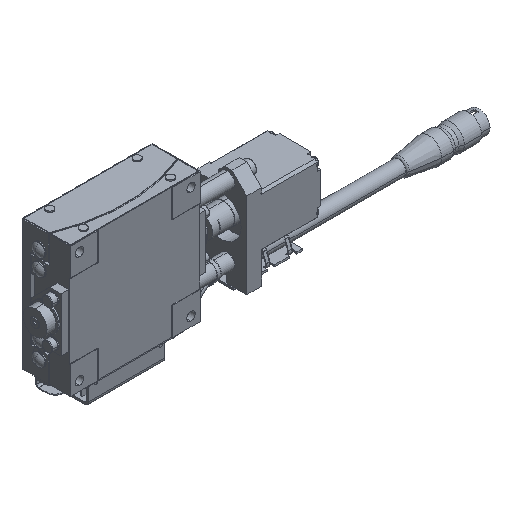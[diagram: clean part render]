
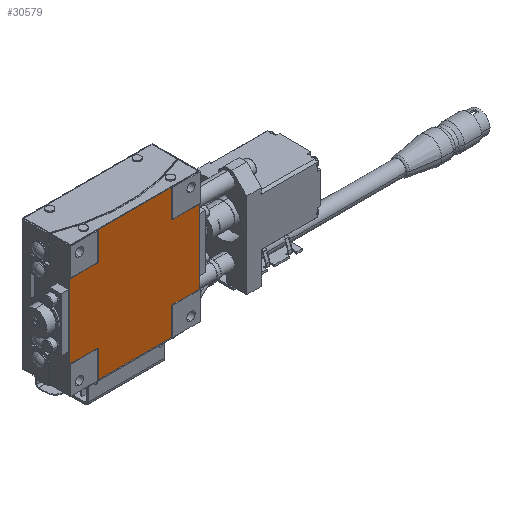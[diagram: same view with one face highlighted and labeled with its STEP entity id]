
A CAD part, isometric view. The second image highlights one B-rep face of the part: STEP entity #30579.
In plain terms, the highlighted planar face has unit normal (0, -1, 0).
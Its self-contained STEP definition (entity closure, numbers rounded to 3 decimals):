
#98 = EDGE_CURVE ( 'NONE', #22498, #18469, #4085, .T. ) ;
#250 = VERTEX_POINT ( 'NONE', #40779 ) ;
#317 = CARTESIAN_POINT ( 'NONE',  ( -35., 0.3, -20. ) ) ;
#466 = DIRECTION ( 'NONE',  ( 1., 0., 0. ) ) ;
#645 = LINE ( 'NONE', #317, #41882 ) ;
#1678 = DIRECTION ( 'NONE',  ( 0., 0., 1. ) ) ;
#2079 = VECTOR ( 'NONE', #29240, 1000. ) ;
#2327 = DIRECTION ( 'NONE',  ( 0., 0., -1. ) ) ;
#2330 = CARTESIAN_POINT ( 'NONE',  ( -20., 0.3, 20. ) ) ;
#2483 = CARTESIAN_POINT ( 'NONE',  ( 35., 0.3, 20. ) ) ;
#4085 = LINE ( 'NONE', #34901, #27233 ) ;
#4150 = LINE ( 'NONE', #26068, #2079 ) ;
#5897 = CARTESIAN_POINT ( 'NONE',  ( -35., 0.3, 20. ) ) ;
#5947 = CARTESIAN_POINT ( 'NONE',  ( 20., 0.3, -20. ) ) ;
#7418 = CARTESIAN_POINT ( 'NONE',  ( 35., 0.3, -20. ) ) ;
#7503 = LINE ( 'NONE', #31606, #31747 ) ;
#7732 = VECTOR ( 'NONE', #2327, 1000. ) ;
#7751 = ORIENTED_EDGE ( 'NONE', *, *, #40291, .T. ) ;
#8882 = LINE ( 'NONE', #5947, #18104 ) ;
#10231 = CARTESIAN_POINT ( 'NONE',  ( 35., 0.3, 20. ) ) ;
#10238 = LINE ( 'NONE', #14918, #28829 ) ;
#10361 = ORIENTED_EDGE ( 'NONE', *, *, #18931, .T. ) ;
#10362 = CARTESIAN_POINT ( 'NONE',  ( 20., 0.3, 20. ) ) ;
#12035 = ORIENTED_EDGE ( 'NONE', *, *, #27051, .T. ) ;
#12754 = CARTESIAN_POINT ( 'NONE',  ( 20., 0.3, 35. ) ) ;
#13272 = CARTESIAN_POINT ( 'NONE',  ( -35., 0.3, 20. ) ) ;
#14918 = CARTESIAN_POINT ( 'NONE',  ( -20., 0.3, -35. ) ) ;
#15252 = DIRECTION ( 'NONE',  ( 0., 0., 1. ) ) ;
#16092 = ORIENTED_EDGE ( 'NONE', *, *, #31143, .T. ) ;
#16553 = EDGE_CURVE ( 'NONE', #25066, #23331, #8882, .T. ) ;
#17611 = VERTEX_POINT ( 'NONE', #35930 ) ;
#18104 = VECTOR ( 'NONE', #28434, 1000. ) ;
#18469 = VERTEX_POINT ( 'NONE', #12754 ) ;
#18706 = EDGE_CURVE ( 'NONE', #250, #24775, #10238, .T. ) ;
#18715 = VERTEX_POINT ( 'NONE', #41745 ) ;
#18771 = DIRECTION ( 'NONE',  ( 0., 1., 0. ) ) ;
#18931 = EDGE_CURVE ( 'NONE', #19700, #22498, #30358, .T. ) ;
#19167 = DIRECTION ( 'NONE',  ( -1., 0., 0. ) ) ;
#19700 = VERTEX_POINT ( 'NONE', #10231 ) ;
#19995 = CARTESIAN_POINT ( 'NONE',  ( 20., 0.3, -35. ) ) ;
#21306 = CARTESIAN_POINT ( 'NONE',  ( -20., 0.3, 20. ) ) ;
#21682 = PLANE ( 'NONE',  #40703 ) ;
#21849 = VERTEX_POINT ( 'NONE', #13272 ) ;
#22098 = DIRECTION ( 'NONE',  ( -1., 0., 0. ) ) ;
#22127 = VECTOR ( 'NONE', #27095, 1000. ) ;
#22498 = VERTEX_POINT ( 'NONE', #10362 ) ;
#22660 = VECTOR ( 'NONE', #15252, 1000. ) ;
#23163 = VECTOR ( 'NONE', #35004, 1000. ) ;
#23331 = VERTEX_POINT ( 'NONE', #7418 ) ;
#24330 = VERTEX_POINT ( 'NONE', #40539 ) ;
#24711 = ORIENTED_EDGE ( 'NONE', *, *, #98, .T. ) ;
#24775 = VERTEX_POINT ( 'NONE', #19995 ) ;
#24864 = DIRECTION ( 'NONE',  ( 1., 0., 0. ) ) ;
#24940 = LINE ( 'NONE', #25690, #40487 ) ;
#24989 = VERTEX_POINT ( 'NONE', #2330 ) ;
#25066 = VERTEX_POINT ( 'NONE', #29081 ) ;
#25241 = LINE ( 'NONE', #33629, #22127 ) ;
#25289 = CARTESIAN_POINT ( 'NONE',  ( 0., 0.3, 0. ) ) ;
#25690 = CARTESIAN_POINT ( 'NONE',  ( -20., 0.3, 35. ) ) ;
#26068 = CARTESIAN_POINT ( 'NONE',  ( -35., 0.3, 20. ) ) ;
#26738 = VECTOR ( 'NONE', #32233, 1000. ) ;
#26883 = EDGE_CURVE ( 'NONE', #24330, #250, #25241, .T. ) ;
#27051 = EDGE_CURVE ( 'NONE', #17611, #24989, #37137, .T. ) ;
#27095 = DIRECTION ( 'NONE',  ( 0., 0., -1. ) ) ;
#27233 = VECTOR ( 'NONE', #28024, 1000. ) ;
#27744 = ORIENTED_EDGE ( 'NONE', *, *, #33554, .T. ) ;
#28024 = DIRECTION ( 'NONE',  ( 0., 0., 1. ) ) ;
#28434 = DIRECTION ( 'NONE',  ( 1., 0., 0. ) ) ;
#28716 = EDGE_CURVE ( 'NONE', #23331, #19700, #40220, .T. ) ;
#28829 = VECTOR ( 'NONE', #24864, 1000. ) ;
#28848 = EDGE_CURVE ( 'NONE', #24989, #21849, #4150, .T. ) ;
#28861 = EDGE_LOOP ( 'NONE', ( #42072, #33434, #10361, #24711, #40622, #12035, #36842, #7751, #27744, #42482, #35334, #16092 ) ) ;
#29081 = CARTESIAN_POINT ( 'NONE',  ( 20., 0.3, -20. ) ) ;
#29240 = DIRECTION ( 'NONE',  ( -1., 0., 0. ) ) ;
#30358 = LINE ( 'NONE', #38732, #26738 ) ;
#30449 = LINE ( 'NONE', #5897, #7732 ) ;
#30579 = ADVANCED_FACE ( 'NONE', ( #41584 ), #21682, .F. ) ;
#31143 = EDGE_CURVE ( 'NONE', #24775, #25066, #7503, .T. ) ;
#31606 = CARTESIAN_POINT ( 'NONE',  ( 20., 0.3, -35. ) ) ;
#31747 = VECTOR ( 'NONE', #1678, 1000. ) ;
#32233 = DIRECTION ( 'NONE',  ( -1., 0., 0. ) ) ;
#33434 = ORIENTED_EDGE ( 'NONE', *, *, #28716, .T. ) ;
#33554 = EDGE_CURVE ( 'NONE', #18715, #24330, #645, .T. ) ;
#33629 = CARTESIAN_POINT ( 'NONE',  ( -20., 0.3, -35. ) ) ;
#34901 = CARTESIAN_POINT ( 'NONE',  ( 20., 0.3, 20. ) ) ;
#35004 = DIRECTION ( 'NONE',  ( 0., 0., -1. ) ) ;
#35334 = ORIENTED_EDGE ( 'NONE', *, *, #18706, .T. ) ;
#35930 = CARTESIAN_POINT ( 'NONE',  ( -20., 0.3, 35. ) ) ;
#36842 = ORIENTED_EDGE ( 'NONE', *, *, #28848, .T. ) ;
#37137 = LINE ( 'NONE', #21306, #23163 ) ;
#38732 = CARTESIAN_POINT ( 'NONE',  ( 20., 0.3, 20. ) ) ;
#40220 = LINE ( 'NONE', #2483, #22660 ) ;
#40291 = EDGE_CURVE ( 'NONE', #21849, #18715, #30449, .T. ) ;
#40487 = VECTOR ( 'NONE', #19167, 1000. ) ;
#40539 = CARTESIAN_POINT ( 'NONE',  ( -20., 0.3, -20. ) ) ;
#40622 = ORIENTED_EDGE ( 'NONE', *, *, #40932, .T. ) ;
#40703 = AXIS2_PLACEMENT_3D ( 'NONE', #25289, #18771, #22098 ) ;
#40779 = CARTESIAN_POINT ( 'NONE',  ( -20., 0.3, -35. ) ) ;
#40932 = EDGE_CURVE ( 'NONE', #18469, #17611, #24940, .T. ) ;
#41584 = FACE_OUTER_BOUND ( 'NONE', #28861, .T. ) ;
#41745 = CARTESIAN_POINT ( 'NONE',  ( -35., 0.3, -20. ) ) ;
#41882 = VECTOR ( 'NONE', #466, 1000. ) ;
#42072 = ORIENTED_EDGE ( 'NONE', *, *, #16553, .T. ) ;
#42482 = ORIENTED_EDGE ( 'NONE', *, *, #26883, .T. ) ;
